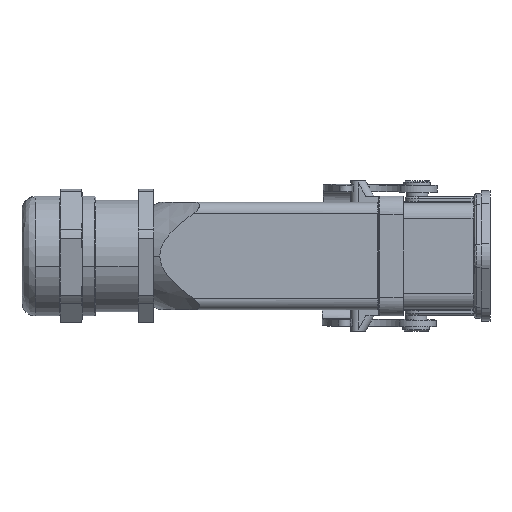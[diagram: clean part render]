
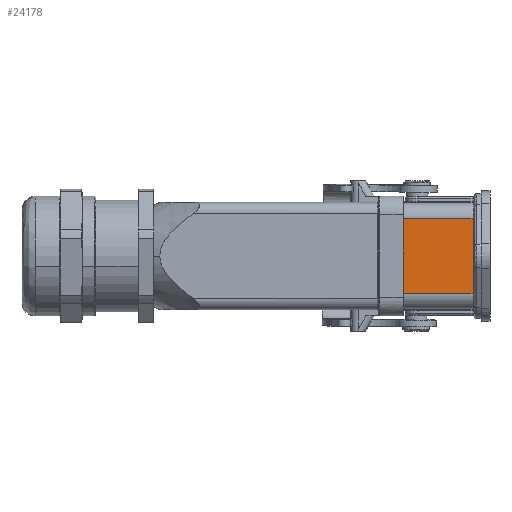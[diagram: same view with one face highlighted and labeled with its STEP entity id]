
A CAD part, left-side view. The second image highlights one B-rep face of the part: STEP entity #24178.
In plain terms, the highlighted planar face has unit normal (-1, 0, 0).
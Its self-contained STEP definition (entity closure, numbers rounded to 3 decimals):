
#685 = VECTOR ( 'NONE', #11699, 1000. ) ;
#1381 = LINE ( 'NONE', #47364, #48714 ) ;
#1903 = EDGE_LOOP ( 'NONE', ( #14099, #36946, #47291, #37185 ) ) ;
#3663 = EDGE_CURVE ( 'NONE', #33117, #20606, #25886, .T. ) ;
#4683 = VECTOR ( 'NONE', #40126, 1000. ) ;
#6260 = CARTESIAN_POINT ( 'NONE',  ( -12., 2.8, -8.426 ) ) ;
#6940 = CARTESIAN_POINT ( 'NONE',  ( -12., 22., -8.426 ) ) ;
#7682 = FACE_OUTER_BOUND ( 'NONE', #1903, .T. ) ;
#10062 = VECTOR ( 'NONE', #13149, 1000. ) ;
#11699 = DIRECTION ( 'NONE',  ( 0., -1., 0. ) ) ;
#12136 = LINE ( 'NONE', #28408, #4683 ) ;
#12581 = DIRECTION ( 'NONE',  ( -1., 0., 0. ) ) ;
#13149 = DIRECTION ( 'NONE',  ( 0., -1., 0. ) ) ;
#14099 = ORIENTED_EDGE ( 'NONE', *, *, #15128, .T. ) ;
#14145 = CARTESIAN_POINT ( 'NONE',  ( -12., 22., 8.426 ) ) ;
#14439 = VERTEX_POINT ( 'NONE', #6940 ) ;
#15128 = EDGE_CURVE ( 'NONE', #14439, #33055, #44570, .T. ) ;
#15839 = CARTESIAN_POINT ( 'NONE',  ( -12., 2.5, -12. ) ) ;
#19813 = CARTESIAN_POINT ( 'NONE',  ( -12., 2.5, -8.426 ) ) ;
#20606 = VERTEX_POINT ( 'NONE', #43018 ) ;
#24178 = ADVANCED_FACE ( 'NONE', ( #7682 ), #53121, .T. ) ;
#24765 = EDGE_CURVE ( 'NONE', #14439, #33117, #1381, .T. ) ;
#25886 = LINE ( 'NONE', #46312, #10062 ) ;
#27799 = AXIS2_PLACEMENT_3D ( 'NONE', #15839, #12581, #32403 ) ;
#28408 = CARTESIAN_POINT ( 'NONE',  ( -12., 2.8, -12. ) ) ;
#32403 = DIRECTION ( 'NONE',  ( 0., 0., 1. ) ) ;
#33055 = VERTEX_POINT ( 'NONE', #6260 ) ;
#33117 = VERTEX_POINT ( 'NONE', #14145 ) ;
#35506 = EDGE_CURVE ( 'NONE', #33055, #20606, #12136, .T. ) ;
#36946 = ORIENTED_EDGE ( 'NONE', *, *, #35506, .T. ) ;
#37185 = ORIENTED_EDGE ( 'NONE', *, *, #24765, .F. ) ;
#40126 = DIRECTION ( 'NONE',  ( 0., 0., 1. ) ) ;
#43018 = CARTESIAN_POINT ( 'NONE',  ( -12., 2.8, 8.426 ) ) ;
#44570 = LINE ( 'NONE', #19813, #685 ) ;
#46312 = CARTESIAN_POINT ( 'NONE',  ( -12., 22.086, 8.426 ) ) ;
#47291 = ORIENTED_EDGE ( 'NONE', *, *, #3663, .F. ) ;
#47364 = CARTESIAN_POINT ( 'NONE',  ( -12., 22., 0. ) ) ;
#48714 = VECTOR ( 'NONE', #51440, 1000. ) ;
#51440 = DIRECTION ( 'NONE',  ( 0., 0., 1. ) ) ;
#53121 = PLANE ( 'NONE',  #27799 ) ;
